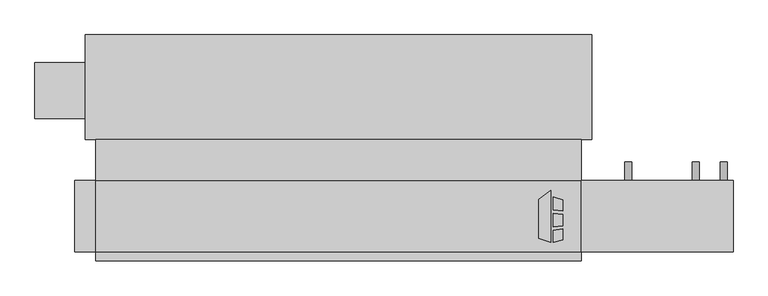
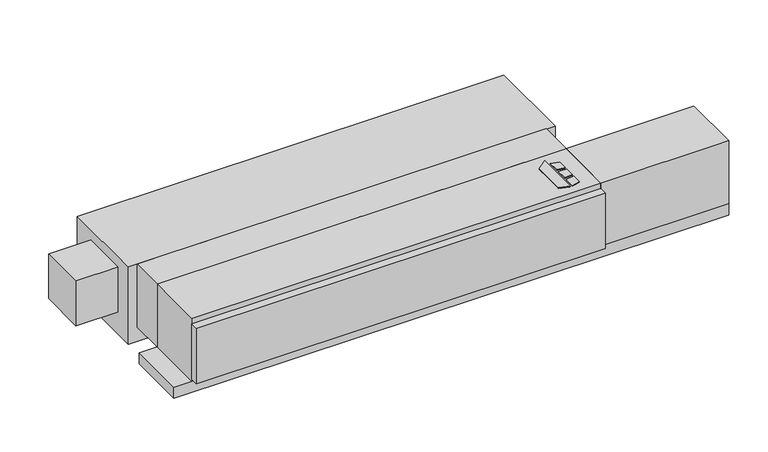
"""IFC4 building model written with IfcOpenShell, lengths in millimetres: proxy geometry, Concealed_Horizontal_Fan_Coil_Unit_With_Plenum_-_CPF_-_IEC_-_2-Pipe_RH : Size 10 - 115v/60Hz/1Ph - 4/1 Coil."""

from ifc_helpers import new_model, si_unit, point, frame, frame_2d, origin, origin_with_axes, place, context, project, spatial, polyline, circle_curve, trimmed, segment, composite_curve, outline, extrude, source, transform, mapped, element, save


def mechanical_equipment_2c707b15(model_context):
    return source(origin(), model_context, "Body", "SweptSolid", [
        extrude(outline(polyline([(696.6019761, -193.0453476), (729.1602728, -167.6080184), (729.1602728, -309.5625), (696.6019761, -299.3429201), (696.6019761, -193.0453476)])), origin_with_axes(), (0.0, 0.0, 1.0), 3.175),
        extrude(outline(polyline([(735.9186058, -220.917352), (735.9186058, -186.4374379), (762.0, -194.6240115), (762.0, -224.1197446), (735.9186058, -220.917352)])), origin_with_axes(), (0.0, 0.0, 1.0), 3.175),
        extrude(outline(polyline([(762.0, -302.5740115), (735.9186058, -309.5625), (735.9186058, -276.3411996), (762.0, -272.7993564), (762.0, -302.5740115)])), origin_with_axes(), (0.0, 0.0, 1.0), 3.175),
        extrude(outline(polyline([(762.0, -233.2013277), (762.0, -264.451483), (735.9186058, -267.192748), (735.9186058, -231.3350378), (762.0, -233.2013277)])), origin_with_axes(), (0.0, 0.0, 1.0), 3.175),
        extrude(outline(polyline([(-508.0, -30.1625), (812.8, -30.1625), (812.8, -141.2875), (-508.0, -141.2875), (-508.0, -30.1625)])), frame((0.0, 0.0, -215.9), z_axis=(0.0, 0.0, 1.0), x_axis=(1.0, 0.0, 0.0)), (0.0, 0.0, 1.0), 215.9),
        extrude(outline(composite_curve([segment(trimmed(circle_curve(frame_2d((-158.75, 1123.95)), 9.525), [point((-158.75, 1133.475))], [point((-158.75, 1114.425))], False, "CARTESIAN"), True, "CONTINUOUS"), segment(trimmed(circle_curve(frame_2d((-158.75, 1123.95)), 9.525), [point((-158.75, 1114.425))], [point((-158.75, 1133.475))], False, "CARTESIAN"), True, "CONTINUOUS")], self_intersect=False)), frame((0.0, -141.2875, 0.0), z_axis=(0.0, 1.0, 0.0), x_axis=(0.0, 0.0, 1.0)), (0.0, 0.0, 1.0), 50.8),
        extrude(outline(composite_curve([segment(trimmed(circle_curve(frame_2d((-158.75, 939.8)), 9.525), [point((-158.75, 949.325))], [point((-158.75, 930.275))], False, "CARTESIAN"), True, "CONTINUOUS"), segment(trimmed(circle_curve(frame_2d((-158.75, 939.8)), 9.525), [point((-158.75, 930.275))], [point((-158.75, 949.325))], False, "CARTESIAN"), True, "CONTINUOUS")], self_intersect=False)), frame((0.0, -141.2875, 0.0), z_axis=(0.0, 1.0, 0.0), x_axis=(0.0, 0.0, 1.0)), (0.0, 0.0, 1.0), 50.8),
        extrude(outline(polyline([(1225.55, -141.2875), (1225.55, -334.9625), (812.8, -334.9625), (812.8, -141.2875), (1225.55, -141.2875)])), frame((0.0, 0.0, -215.9), z_axis=(0.0, 0.0, 1.0), x_axis=(1.0, 0.0, 0.0)), (0.0, 0.0, 1.0), 215.9),
        extrude(outline(composite_curve([segment(trimmed(circle_curve(frame_2d((-241.3, 1200.15)), 9.525), [point((-241.3, 1190.625))], [point((-241.3, 1209.675))], False, "CARTESIAN"), True, "CONTINUOUS"), segment(trimmed(circle_curve(frame_2d((-241.3, 1200.15)), 9.525), [point((-241.3, 1209.675))], [point((-241.3, 1190.625))], False, "CARTESIAN"), True, "CONTINUOUS")], self_intersect=False)), frame((0.0, -141.2875, 0.0), z_axis=(0.0, 1.0, 0.0), x_axis=(0.0, 0.0, 1.0)), (0.0, 0.0, 1.0), 50.8),
        extrude(outline(polyline([(812.8, -334.9625), (812.8, -360.3625), (-508.0, -360.3625), (-508.0, -334.9625), (812.8, -334.9625)])), frame((0.0, 0.0, -209.55), z_axis=(0.0, 0.0, 1.0), x_axis=(1.0, 0.0, 0.0)), (0.0, 0.0, 1.0), 190.5),
        extrude(outline(polyline([(812.8, -334.9625), (-508.0, -334.9625), (-508.0, -141.2875), (812.8, -141.2875), (812.8, -334.9625)])), frame((0.0, 0.0, -215.9), z_axis=(0.0, 0.0, 1.0), x_axis=(1.0, 0.0, 0.0)), (0.0, 0.0, 1.0), 215.9),
        extrude(outline(polyline([(1225.55, -141.2875), (1225.55, -334.9625), (-565.15, -334.9625), (-565.15, -141.2875), (1225.55, -141.2875)])), frame((0.0, 0.0, -254.0), z_axis=(0.0, 0.0, 1.0), x_axis=(1.0, 0.0, 0.0)), (0.0, 0.0, 1.0), 38.1),
        extrude(outline(polyline([(-673.1, 26.9875), (-673.1, 179.3875), (-536.575, 179.3875), (-536.575, 26.9875), (-673.1, 26.9875)])), frame((0.0, 0.0, -187.325), z_axis=(0.0, 0.0, 1.0), x_axis=(1.0, 0.0, 0.0)), (0.0, 0.0, 1.0), 152.4),
        extrude(outline(polyline([(-536.575, 255.5875), (841.375, 255.5875), (841.375, -30.1625), (-536.575, -30.1625), (-536.575, 255.5875)])), frame((0.0, 0.0, -263.525), z_axis=(0.0, 0.0, 1.0), x_axis=(1.0, 0.0, 0.0)), (0.0, 0.0, 1.0), 263.525),
    ])


if __name__ == "__main__":
    model = new_model("IFC4")
    model_context = context("Model", 3, world=origin())
    ifc_project = project(units=[si_unit("LENGTHUNIT", "METRE", prefix="MILLI")], contexts=[model_context])
    site = spatial("IfcSite", under=ifc_project)
    building = spatial("IfcBuilding", under=site)
    placement = place(None, origin())
    mechanical_equipment_shape = mechanical_equipment_2c707b15(model_context)
    element("IfcBuildingElementProxy", 1, Name="Concealed_Horizontal_Fan_Coil_Unit_With_Plenum_-_CPF_-_IEC_-_2-Pipe_RH : Size 10 - 115v/60Hz/1Ph - 4/1 Coil", ObjectType="Concealed_Horizontal_Fan_Coil_Unit_With_Plenum_-_CPF_-_IEC_-_2-Pipe_RH : Size 10 - 115v/60Hz/1Ph - 4/1 Coil", at=placement, inside=building, context=model_context, shape_type="MappedRepresentation", body=[
        mapped(mechanical_equipment_shape, transform((0.0, 0.0, 0.0), x_axis=(1.0, 0.0, 0.0), y_axis=(0.0, 1.0, 0.0), z_axis=(0.0, 0.0, 1.0))),
    ])
    save(model, "model.ifc")
